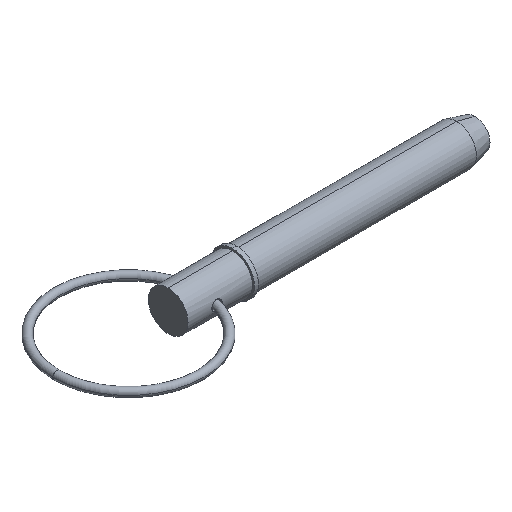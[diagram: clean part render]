
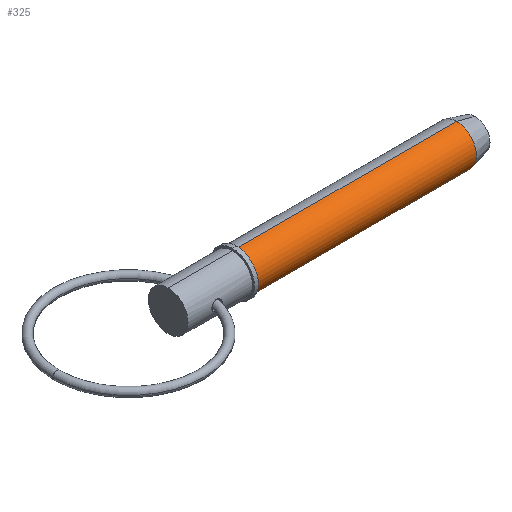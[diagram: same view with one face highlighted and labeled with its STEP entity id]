
A CAD part, isometric view. The second image highlights one B-rep face of the part: STEP entity #325.
In plain terms, the highlighted cylindrical face has radius 7.94 mm (diameter 15.88 mm), a partial arc.
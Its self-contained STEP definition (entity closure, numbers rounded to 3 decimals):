
#2 = LINE ( 'NONE', #909, #335 ) ;
#16 = CARTESIAN_POINT ( 'NONE',  ( 115.152, 0., 7.94 ) ) ;
#44 = CARTESIAN_POINT ( 'NONE',  ( 27.31, 0., 0. ) ) ;
#67 = VERTEX_POINT ( 'NONE', #869 ) ;
#71 = CYLINDRICAL_SURFACE ( 'NONE', #993, 7.94 ) ;
#96 = DIRECTION ( 'NONE',  ( 1., 0., 0. ) ) ;
#105 = EDGE_CURVE ( 'NONE', #644, #441, #286, .T. ) ;
#115 = CARTESIAN_POINT ( 'NONE',  ( 115.152, 0., 0. ) ) ;
#123 = CARTESIAN_POINT ( 'NONE',  ( 0., 0., 7.94 ) ) ;
#213 = DIRECTION ( 'NONE',  ( 0., 0., -1. ) ) ;
#238 = EDGE_LOOP ( 'NONE', ( #302, #498, #879, #884 ) ) ;
#286 = LINE ( 'NONE', #123, #449 ) ;
#302 = ORIENTED_EDGE ( 'NONE', *, *, #105, .F. ) ;
#325 = ADVANCED_FACE ( 'NONE', ( #561 ), #71, .T. ) ;
#335 = VECTOR ( 'NONE', #804, 1000. ) ;
#365 = DIRECTION ( 'NONE',  ( 1., 0., 0. ) ) ;
#380 = CARTESIAN_POINT ( 'NONE',  ( 0., 0., 0. ) ) ;
#398 = DIRECTION ( 'NONE',  ( 1., 0., 0. ) ) ;
#411 = CARTESIAN_POINT ( 'NONE',  ( 115.152, 0., -7.94 ) ) ;
#431 = DIRECTION ( 'NONE',  ( 0., 0., -1. ) ) ;
#437 = CIRCLE ( 'NONE', #513, 7.94 ) ;
#441 = VERTEX_POINT ( 'NONE', #16 ) ;
#449 = VECTOR ( 'NONE', #629, 1000. ) ;
#498 = ORIENTED_EDGE ( 'NONE', *, *, #1014, .T. ) ;
#513 = AXIS2_PLACEMENT_3D ( 'NONE', #115, #96, #431 ) ;
#561 = FACE_OUTER_BOUND ( 'NONE', #238, .T. ) ;
#629 = DIRECTION ( 'NONE',  ( 1., 0., 0. ) ) ;
#644 = VERTEX_POINT ( 'NONE', #952 ) ;
#657 = CIRCLE ( 'NONE', #881, 7.94 ) ;
#725 = EDGE_CURVE ( 'NONE', #67, #838, #2, .T. ) ;
#729 = DIRECTION ( 'NONE',  ( 0., 0., -1. ) ) ;
#804 = DIRECTION ( 'NONE',  ( 1., 0., 0. ) ) ;
#838 = VERTEX_POINT ( 'NONE', #411 ) ;
#869 = CARTESIAN_POINT ( 'NONE',  ( 27.31, 0., -7.94 ) ) ;
#879 = ORIENTED_EDGE ( 'NONE', *, *, #725, .T. ) ;
#881 = AXIS2_PLACEMENT_3D ( 'NONE', #44, #365, #213 ) ;
#884 = ORIENTED_EDGE ( 'NONE', *, *, #914, .F. ) ;
#909 = CARTESIAN_POINT ( 'NONE',  ( 0., 0., -7.94 ) ) ;
#914 = EDGE_CURVE ( 'NONE', #441, #838, #437, .T. ) ;
#952 = CARTESIAN_POINT ( 'NONE',  ( 27.31, 0., 7.94 ) ) ;
#993 = AXIS2_PLACEMENT_3D ( 'NONE', #380, #398, #729 ) ;
#1014 = EDGE_CURVE ( 'NONE', #644, #67, #657, .T. ) ;
